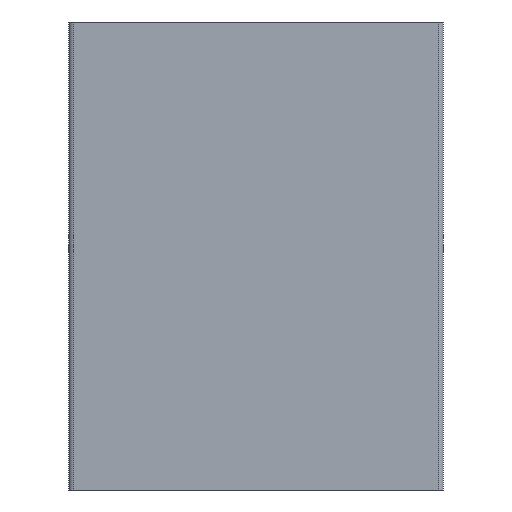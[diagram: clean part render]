
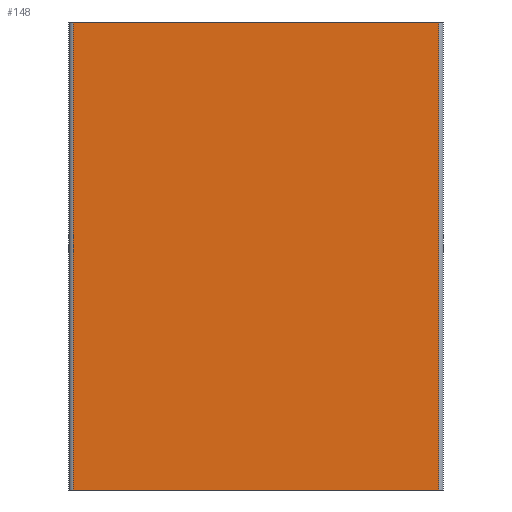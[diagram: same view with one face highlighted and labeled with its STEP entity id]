
A CAD part, left-side view. The second image highlights one B-rep face of the part: STEP entity #148.
In plain terms, the highlighted planar face has unit normal (-1, 0, 0).
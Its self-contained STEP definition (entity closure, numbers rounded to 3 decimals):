
#148 = ADVANCED_FACE ( 'NONE', ( #2452 ), #3548, .F. ) ;
#187 = LINE ( 'NONE', #2765, #2346 ) ;
#215 = ORIENTED_EDGE ( 'NONE', *, *, #1760, .F. ) ;
#278 = CARTESIAN_POINT ( 'NONE',  ( 89.431, 168.187, 0. ) ) ;
#506 = AXIS2_PLACEMENT_3D ( 'NONE', #1594, #3565, #1879 ) ;
#1033 = VECTOR ( 'NONE', #2253, 1000. ) ;
#1107 = ORIENTED_EDGE ( 'NONE', *, *, #3409, .T. ) ;
#1111 = LINE ( 'NONE', #1479, #3287 ) ;
#1225 = CARTESIAN_POINT ( 'NONE',  ( 89.431, 168.187, 50. ) ) ;
#1264 = DIRECTION ( 'NONE',  ( 0., 0., -1. ) ) ;
#1359 = DIRECTION ( 'NONE',  ( 0., -1., 0. ) ) ;
#1431 = VERTEX_POINT ( 'NONE', #1225 ) ;
#1479 = CARTESIAN_POINT ( 'NONE',  ( 89.431, 168.187, 50. ) ) ;
#1594 = CARTESIAN_POINT ( 'NONE',  ( 89.431, -9.382, 50. ) ) ;
#1760 = EDGE_CURVE ( 'NONE', #2484, #1431, #1889, .T. ) ;
#1807 = VERTEX_POINT ( 'NONE', #278 ) ;
#1878 = CARTESIAN_POINT ( 'NONE',  ( 89.431, -9.382, 50. ) ) ;
#1879 = DIRECTION ( 'NONE',  ( 0., 0., -1. ) ) ;
#1889 = LINE ( 'NONE', #1878, #1033 ) ;
#2170 = CARTESIAN_POINT ( 'NONE',  ( 89.431, 207.187, 0. ) ) ;
#2215 = EDGE_CURVE ( 'NONE', #1431, #1807, #1111, .T. ) ;
#2223 = ORIENTED_EDGE ( 'NONE', *, *, #2215, .F. ) ;
#2253 = DIRECTION ( 'NONE',  ( 0., -1., 0. ) ) ;
#2346 = VECTOR ( 'NONE', #1359, 1000. ) ;
#2452 = FACE_OUTER_BOUND ( 'NONE', #3235, .T. ) ;
#2484 = VERTEX_POINT ( 'NONE', #2984 ) ;
#2514 = VERTEX_POINT ( 'NONE', #2170 ) ;
#2651 = LINE ( 'NONE', #2674, #2748 ) ;
#2674 = CARTESIAN_POINT ( 'NONE',  ( 89.431, 207.187, 50. ) ) ;
#2748 = VECTOR ( 'NONE', #1264, 1000. ) ;
#2765 = CARTESIAN_POINT ( 'NONE',  ( 89.431, -9.382, 0. ) ) ;
#2833 = EDGE_CURVE ( 'NONE', #2514, #1807, #187, .T. ) ;
#2984 = CARTESIAN_POINT ( 'NONE',  ( 89.431, 207.187, 50. ) ) ;
#3235 = EDGE_LOOP ( 'NONE', ( #3628, #2223, #215, #1107 ) ) ;
#3287 = VECTOR ( 'NONE', #3458, 1000. ) ;
#3409 = EDGE_CURVE ( 'NONE', #2484, #2514, #2651, .T. ) ;
#3458 = DIRECTION ( 'NONE',  ( 0., 0., -1. ) ) ;
#3548 = PLANE ( 'NONE',  #506 ) ;
#3565 = DIRECTION ( 'NONE',  ( 1., 0., 0. ) ) ;
#3628 = ORIENTED_EDGE ( 'NONE', *, *, #2833, .T. ) ;
